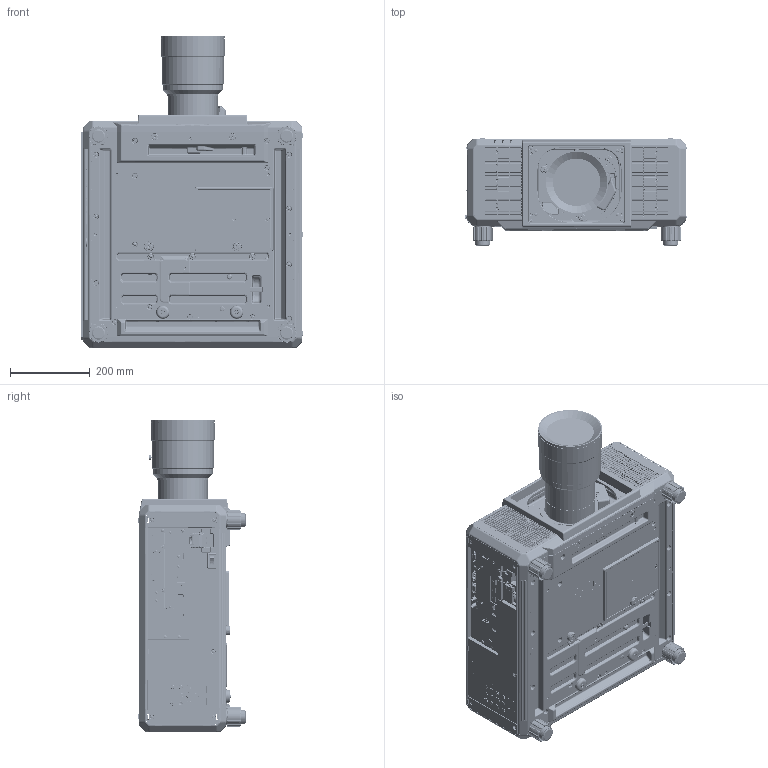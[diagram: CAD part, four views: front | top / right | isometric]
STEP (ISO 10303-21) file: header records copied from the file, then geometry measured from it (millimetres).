
FILE_DESCRIPTION(/* description */ (''),/* implementation_level */ '2;1');
FILE_NAME(/* name */ '01103065_ZA00_RQ25K_D75LE6_FACE.stp',/* time_stamp */ '2022-12-02T14:33:53+09:00',/* author */ (''),/* organization */ (''),/* preprocessor_version */ 'ST-DEVELOPER v16',/* originating_system */ 'SIEMENS PLM Software NX 10.0',/* authorisation */ '');
FILE_SCHEMA (('AUTOMOTIVE_DESIGN { 1 0 10303 214 3 1 1 1 }'));
Products named in the file (1): 01103065_ZA00
Bounding box: 556.3 x 269 x 783.15 mm (x, y, z)
Surface area: 1964569.8 mm2 (no closed solid volume)
Topology: 0 solids, 2164 shells, 10323 faces, 46389 edges, 37631 vertices
Faces by surface type: plane 5212, cylinder 4044, torus 420, bspline 395, cone 150, sphere 101, extrusion 1
Full cylindrical faces by diameter (mm): 1.02 x2, 3 x3, 3.6 x2, 3.886 x1, 5 x2, 5.5 x2, 8 x3, 9.5 x2, 12 x1, 14.9 x1, 15 x1, 16 x1, 37.2 x4, 40 x4, 125.2 x1, 126.8 x1, 129.2 x1, 150 x1, 154 x1, 155.6 x1, 155.7 x1, 156 x1, 158 x1, 160 x2
Entity records: 564556 total; most frequent: CARTESIAN_POINT 129557, DIRECTION 76419, ORIENTED_EDGE 56417, EDGE_CURVE 45943, VERTEX_POINT 37495, VECTOR 26095, LINE 26094, AXIS2_PLACEMENT_3D 25162
